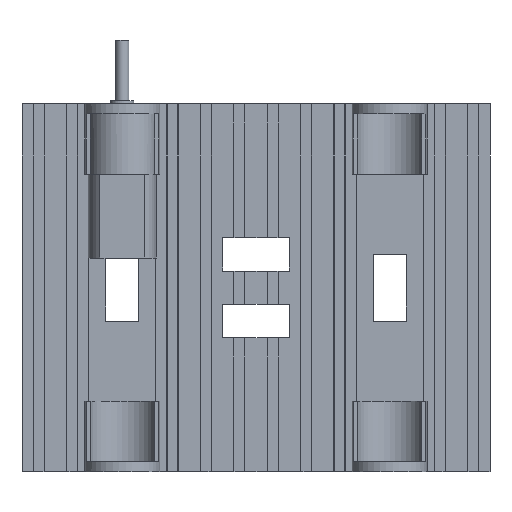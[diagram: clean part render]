
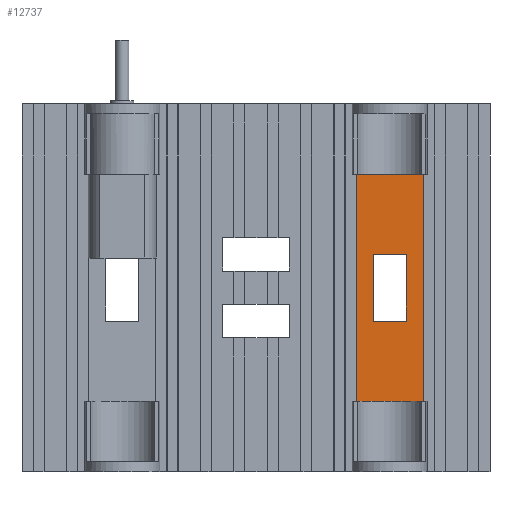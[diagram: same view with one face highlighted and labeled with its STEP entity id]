
A CAD part, front view. The second image highlights one B-rep face of the part: STEP entity #12737.
In plain terms, the highlighted planar face has unit normal (0, -1, 0).
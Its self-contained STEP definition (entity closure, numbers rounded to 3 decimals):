
#39=FACE_BOUND('',#1605,.T.);
#471=PLANE('',#13387);
#1000=FACE_OUTER_BOUND('',#1604,.T.);
#1604=EDGE_LOOP('',(#10824,#10825,#10826,#10827,#10828,#10829,#10830,#10831,
#10832,#10833,#10834,#10835));
#1605=EDGE_LOOP('',(#10836,#10837,#10838,#10839));
#2933=LINE('',#18957,#4614);
#2982=LINE('',#19056,#4663);
#2985=LINE('',#19068,#4666);
#2986=LINE('',#19071,#4667);
#3004=LINE('',#19140,#4685);
#3013=LINE('',#19158,#4694);
#3022=LINE('',#19174,#4703);
#3111=LINE('',#19356,#4792);
#3114=LINE('',#19360,#4795);
#3115=LINE('',#19362,#4796);
#3116=LINE('',#19364,#4797);
#3117=LINE('',#19366,#4798);
#3118=LINE('',#19368,#4799);
#3119=LINE('',#19370,#4800);
#3120=LINE('',#19372,#4801);
#3121=LINE('',#19373,#4802);
#4614=VECTOR('',#15342,10.);
#4663=VECTOR('',#15425,10.);
#4666=VECTOR('',#15436,10.);
#4667=VECTOR('',#15439,10.);
#4685=VECTOR('',#15513,10.);
#4694=VECTOR('',#15524,10.);
#4703=VECTOR('',#15535,10.);
#4792=VECTOR('',#15690,10.);
#4795=VECTOR('',#15695,10.);
#4796=VECTOR('',#15696,10.);
#4797=VECTOR('',#15697,10.);
#4798=VECTOR('',#15698,10.);
#4799=VECTOR('',#15699,10.);
#4800=VECTOR('',#15700,10.);
#4801=VECTOR('',#15701,10.);
#4802=VECTOR('',#15702,10.);
#6184=VERTEX_POINT('',#18954);
#6185=VERTEX_POINT('',#18956);
#6217=VERTEX_POINT('',#19054);
#6218=VERTEX_POINT('',#19055);
#6223=VERTEX_POINT('',#19067);
#6224=VERTEX_POINT('',#19069);
#6247=VERTEX_POINT('',#19139);
#6255=VERTEX_POINT('',#19157);
#6320=VERTEX_POINT('',#19354);
#6321=VERTEX_POINT('',#19355);
#6322=VERTEX_POINT('',#19361);
#6323=VERTEX_POINT('',#19363);
#6324=VERTEX_POINT('',#19365);
#6325=VERTEX_POINT('',#19367);
#6326=VERTEX_POINT('',#19369);
#6327=VERTEX_POINT('',#19371);
#7729=EDGE_CURVE('',#6184,#6185,#2933,.T.);
#7778=EDGE_CURVE('',#6217,#6218,#2982,.T.);
#7784=EDGE_CURVE('',#6223,#6217,#2985,.T.);
#7786=EDGE_CURVE('',#6218,#6224,#2986,.T.);
#7820=EDGE_CURVE('',#6247,#6185,#3004,.T.);
#7829=EDGE_CURVE('',#6255,#6247,#3013,.T.);
#7838=EDGE_CURVE('',#6255,#6184,#3022,.T.);
#7927=EDGE_CURVE('',#6320,#6321,#3111,.T.);
#7930=EDGE_CURVE('',#6223,#6321,#3114,.T.);
#7931=EDGE_CURVE('',#6322,#6224,#3115,.T.);
#7932=EDGE_CURVE('',#6323,#6322,#3116,.T.);
#7933=EDGE_CURVE('',#6323,#6324,#3117,.T.);
#7934=EDGE_CURVE('',#6325,#6324,#3118,.T.);
#7935=EDGE_CURVE('',#6326,#6325,#3119,.T.);
#7936=EDGE_CURVE('',#6327,#6326,#3120,.T.);
#7937=EDGE_CURVE('',#6327,#6320,#3121,.T.);
#10824=ORIENTED_EDGE('',*,*,#7927,.T.);
#10825=ORIENTED_EDGE('',*,*,#7930,.F.);
#10826=ORIENTED_EDGE('',*,*,#7784,.T.);
#10827=ORIENTED_EDGE('',*,*,#7778,.T.);
#10828=ORIENTED_EDGE('',*,*,#7786,.T.);
#10829=ORIENTED_EDGE('',*,*,#7931,.F.);
#10830=ORIENTED_EDGE('',*,*,#7932,.F.);
#10831=ORIENTED_EDGE('',*,*,#7933,.T.);
#10832=ORIENTED_EDGE('',*,*,#7934,.F.);
#10833=ORIENTED_EDGE('',*,*,#7935,.F.);
#10834=ORIENTED_EDGE('',*,*,#7936,.F.);
#10835=ORIENTED_EDGE('',*,*,#7937,.T.);
#10836=ORIENTED_EDGE('',*,*,#7838,.F.);
#10837=ORIENTED_EDGE('',*,*,#7829,.T.);
#10838=ORIENTED_EDGE('',*,*,#7820,.T.);
#10839=ORIENTED_EDGE('',*,*,#7729,.F.);
#12737=ADVANCED_FACE('',(#1000,#39),#471,.F.);
#13387=AXIS2_PLACEMENT_3D('',#19359,#15693,#15694);
#15342=DIRECTION('',(-1.,0.,0.));
#15425=DIRECTION('',(-1.,0.,0.));
#15436=DIRECTION('',(0.,0.,-1.));
#15439=DIRECTION('',(0.,0.,1.));
#15513=DIRECTION('',(0.,0.,1.));
#15524=DIRECTION('',(-1.,0.,0.));
#15535=DIRECTION('',(0.,0.,1.));
#15690=DIRECTION('',(0.,0.,1.));
#15693=DIRECTION('center_axis',(0.,1.,0.));
#15694=DIRECTION('ref_axis',(0.,0.,1.));
#15695=DIRECTION('',(1.,0.,0.));
#15696=DIRECTION('',(1.,0.,0.));
#15697=DIRECTION('',(0.,0.,1.));
#15698=DIRECTION('',(1.,0.,0.));
#15699=DIRECTION('',(0.,0.,-1.));
#15700=DIRECTION('',(-1.,0.,0.));
#15701=DIRECTION('',(0.,0.,1.));
#15702=DIRECTION('',(1.,0.,0.));
#18954=CARTESIAN_POINT('',(85.,10.2,-29.));
#18956=CARTESIAN_POINT('',(75.,10.2,-29.));
#18957=CARTESIAN_POINT('',(77.5,10.2,-29.));
#19054=CARTESIAN_POINT('',(84.749,10.2,-5.));
#19055=CARTESIAN_POINT('',(75.251,10.2,-5.));
#19056=CARTESIAN_POINT('',(77.5,10.2,-5.));
#19067=CARTESIAN_POINT('',(84.749,10.2,16.));
#19068=CARTESIAN_POINT('',(84.749,10.2,14.));
#19069=CARTESIAN_POINT('',(75.251,10.2,16.));
#19071=CARTESIAN_POINT('',(75.251,10.2,14.));
#19139=CARTESIAN_POINT('',(75.,10.2,-49.));
#19140=CARTESIAN_POINT('',(75.,10.2,-51.5));
#19157=CARTESIAN_POINT('',(85.,10.2,-49.));
#19158=CARTESIAN_POINT('',(77.5,10.2,-49.));
#19174=CARTESIAN_POINT('',(85.,10.2,-26.5));
#19354=CARTESIAN_POINT('',(90.,10.2,-94.));
#19355=CARTESIAN_POINT('',(90.,10.2,16.));
#19356=CARTESIAN_POINT('',(90.,10.2,-64.));
#19359=CARTESIAN_POINT('Origin',(75.,10.2,-64.));
#19360=CARTESIAN_POINT('',(75.,10.2,16.));
#19361=CARTESIAN_POINT('',(70.,10.2,16.));
#19362=CARTESIAN_POINT('',(75.,10.2,16.));
#19363=CARTESIAN_POINT('',(70.,10.2,-94.));
#19364=CARTESIAN_POINT('',(70.,10.2,-14.));
#19365=CARTESIAN_POINT('',(75.251,10.2,-94.));
#19366=CARTESIAN_POINT('',(75.,10.2,-94.));
#19367=CARTESIAN_POINT('',(75.251,10.2,-73.));
#19368=CARTESIAN_POINT('',(75.251,10.2,-92.));
#19369=CARTESIAN_POINT('',(84.749,10.2,-73.));
#19370=CARTESIAN_POINT('',(77.5,10.2,-73.));
#19371=CARTESIAN_POINT('',(84.749,10.2,-94.));
#19372=CARTESIAN_POINT('',(84.749,10.2,-92.));
#19373=CARTESIAN_POINT('',(75.,10.2,-94.));
